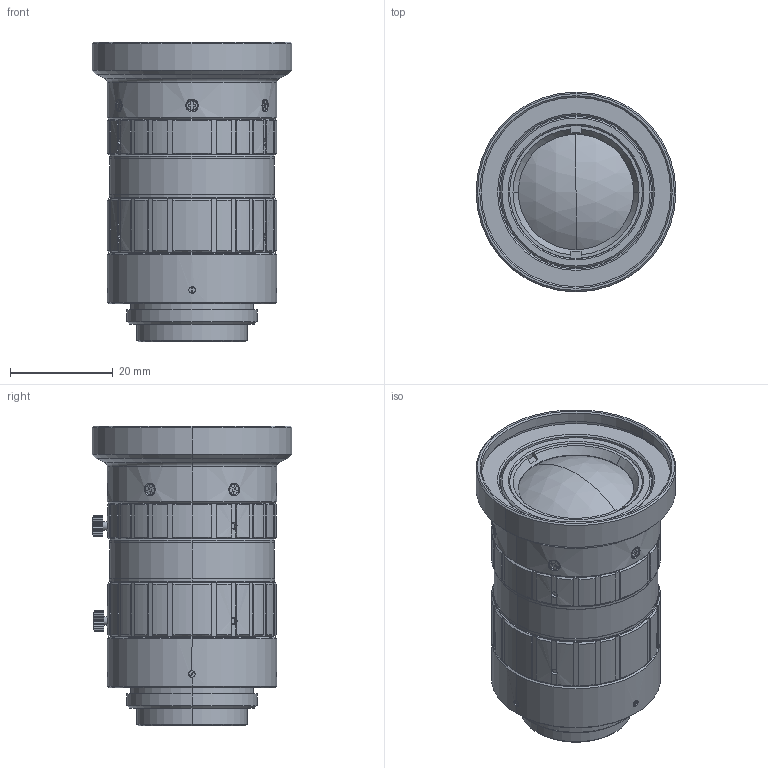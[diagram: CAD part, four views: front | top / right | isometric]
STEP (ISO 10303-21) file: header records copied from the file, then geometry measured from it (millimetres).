
FILE_DESCRIPTION (( 'STEP AP214' ), '1' );
FILE_NAME ('HF6XA-5M_3D_Modeling_ver1.0.STEP', '2016-12-20T07:15:42', ( '富士フイルム株式会社' ), ( '富士フイルム株式会社' ), 'SwSTEP 2.0', 'SolidWorks 2014', '' );
FILE_SCHEMA (( 'AUTOMOTIVE_DESIGN' ));
Length unit declared in the file: millimetre
Products named in the file (1): HF6XA-5M_3D_Modeling_ver1.0
Bounding box: 39 x 39 x 58.44 mm (x, y, z)
Volume: 44278.8 mm3; surface area: 9780.8 mm2
Topology: 1 solids, 1 shells, 644 faces, 1765 edges, 1160 vertices
Faces by surface type: plane 322, cylinder 237, cone 79, sphere 4, torus 2
Entity records: 28235 total; most frequent: CARTESIAN_POINT 5250, ORIENTED_EDGE 3530, DIRECTION 3181, EDGE_CURVE 1765, AXIS2_PLACEMENT_3D 1166, VERTEX_POINT 1160, LINE 849, VECTOR 849
